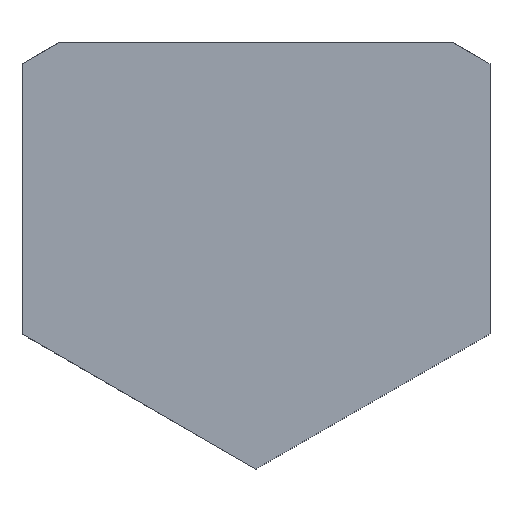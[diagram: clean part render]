
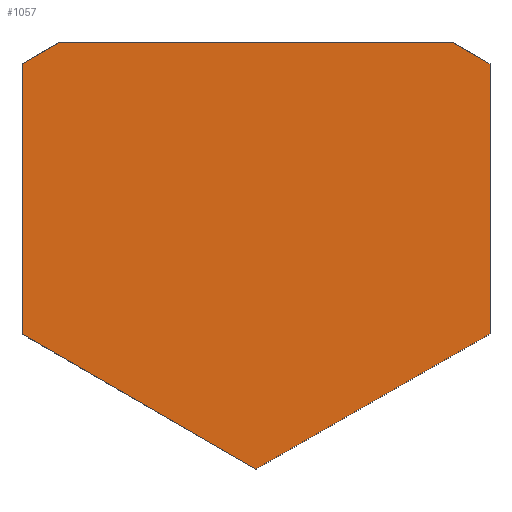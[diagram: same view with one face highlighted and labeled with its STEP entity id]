
A CAD part, left-side view. The second image highlights one B-rep face of the part: STEP entity #1057.
In plain terms, the highlighted planar face has unit normal (-1, 0, 0).
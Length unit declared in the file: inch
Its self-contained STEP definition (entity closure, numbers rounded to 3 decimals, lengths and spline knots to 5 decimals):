
#60 = CARTESIAN_POINT ( 'NONE',  ( 0.00015, -0.46875, -0.27063 ) ) ;
#62 = AXIS2_PLACEMENT_3D ( 'NONE', #2270, #381, #1584 ) ;
#67 = CARTESIAN_POINT ( 'NONE',  ( 0.00015, -0.39623, 0.3125 ) ) ;
#80 = CARTESIAN_POINT ( 'NONE',  ( 0.00015, 0., -0.54127 ) ) ;
#105 = DIRECTION ( 'NONE',  ( 0., 0.866, 0.5 ) ) ;
#161 = CARTESIAN_POINT ( 'NONE',  ( 0.00015, 0.46875, 0.27063 ) ) ;
#183 = ORIENTED_EDGE ( 'NONE', *, *, #1809, .T. ) ;
#193 = CARTESIAN_POINT ( 'NONE',  ( 0.00015, -0.46875, 0.27063 ) ) ;
#244 = LINE ( 'NONE', #459, #2105 ) ;
#296 = LINE ( 'NONE', #461, #558 ) ;
#341 = CARTESIAN_POINT ( 'NONE',  ( 0.00015, 0.39623, 0.3125 ) ) ;
#351 = EDGE_CURVE ( 'NONE', #2193, #1426, #244, .T. ) ;
#355 = CARTESIAN_POINT ( 'NONE',  ( 0.00015, 0.46875, 0.27063 ) ) ;
#363 = DIRECTION ( 'NONE',  ( 0., 0., 1. ) ) ;
#381 = DIRECTION ( 'NONE',  ( 1., 0., 0. ) ) ;
#459 = CARTESIAN_POINT ( 'NONE',  ( 0.00015, 0., -0.54127 ) ) ;
#461 = CARTESIAN_POINT ( 'NONE',  ( 0.00015, -0.46875, 0.27063 ) ) ;
#513 = VECTOR ( 'NONE', #363, 39.37008 ) ;
#556 = LINE ( 'NONE', #60, #513 ) ;
#558 = VECTOR ( 'NONE', #105, 39.37008 ) ;
#568 = CARTESIAN_POINT ( 'NONE',  ( 0.00015, 0.46875, -0.27063 ) ) ;
#638 = EDGE_CURVE ( 'NONE', #1426, #1149, #556, .T. ) ;
#653 = ORIENTED_EDGE ( 'NONE', *, *, #1764, .T. ) ;
#692 = VECTOR ( 'NONE', #1556, 39.37008 ) ;
#722 = VERTEX_POINT ( 'NONE', #341 ) ;
#745 = VERTEX_POINT ( 'NONE', #161 ) ;
#788 = VERTEX_POINT ( 'NONE', #1945 ) ;
#853 = EDGE_CURVE ( 'NONE', #745, #788, #1386, .T. ) ;
#1002 = LINE ( 'NONE', #1353, #1861 ) ;
#1057 = ADVANCED_FACE ( 'NONE', ( #1425 ), #2125, .F. ) ;
#1075 = LINE ( 'NONE', #1592, #692 ) ;
#1149 = VERTEX_POINT ( 'NONE', #193 ) ;
#1270 = DIRECTION ( 'NONE',  ( 0., -0.866, -0.5 ) ) ;
#1271 = VECTOR ( 'NONE', #1270, 39.37008 ) ;
#1278 = VERTEX_POINT ( 'NONE', #67 ) ;
#1331 = DIRECTION ( 'NONE',  ( 0., 0.866, -0.5 ) ) ;
#1353 = CARTESIAN_POINT ( 'NONE',  ( 0.00015, 0.39623, 0.3125 ) ) ;
#1386 = LINE ( 'NONE', #355, #1422 ) ;
#1422 = VECTOR ( 'NONE', #1956, 39.37008 ) ;
#1425 = FACE_OUTER_BOUND ( 'NONE', #1446, .T. ) ;
#1426 = VERTEX_POINT ( 'NONE', #2037 ) ;
#1446 = EDGE_LOOP ( 'NONE', ( #1828, #1752, #2162, #1570, #183, #2259, #653 ) ) ;
#1508 = EDGE_CURVE ( 'NONE', #1278, #722, #1075, .T. ) ;
#1556 = DIRECTION ( 'NONE',  ( 0., 1., 0. ) ) ;
#1570 = ORIENTED_EDGE ( 'NONE', *, *, #638, .T. ) ;
#1584 = DIRECTION ( 'NONE',  ( 0., 1., 0. ) ) ;
#1592 = CARTESIAN_POINT ( 'NONE',  ( 0.00015, -0.39623, 0.3125 ) ) ;
#1693 = DIRECTION ( 'NONE',  ( 0., -0.866, 0.5 ) ) ;
#1752 = ORIENTED_EDGE ( 'NONE', *, *, #2056, .T. ) ;
#1764 = EDGE_CURVE ( 'NONE', #722, #745, #1002, .T. ) ;
#1809 = EDGE_CURVE ( 'NONE', #1149, #1278, #296, .T. ) ;
#1828 = ORIENTED_EDGE ( 'NONE', *, *, #853, .T. ) ;
#1861 = VECTOR ( 'NONE', #1331, 39.37008 ) ;
#1945 = CARTESIAN_POINT ( 'NONE',  ( 0.00015, 0.46875, -0.27063 ) ) ;
#1956 = DIRECTION ( 'NONE',  ( 0., 0., -1. ) ) ;
#2037 = CARTESIAN_POINT ( 'NONE',  ( 0.00015, -0.46875, -0.27063 ) ) ;
#2056 = EDGE_CURVE ( 'NONE', #788, #2193, #2176, .T. ) ;
#2105 = VECTOR ( 'NONE', #1693, 39.37008 ) ;
#2125 = PLANE ( 'NONE',  #62 ) ;
#2162 = ORIENTED_EDGE ( 'NONE', *, *, #351, .T. ) ;
#2176 = LINE ( 'NONE', #568, #1271 ) ;
#2193 = VERTEX_POINT ( 'NONE', #80 ) ;
#2259 = ORIENTED_EDGE ( 'NONE', *, *, #1508, .T. ) ;
#2270 = CARTESIAN_POINT ( 'NONE',  ( 0.00015, 0., -0.04575 ) ) ;
